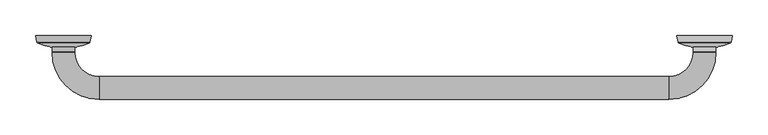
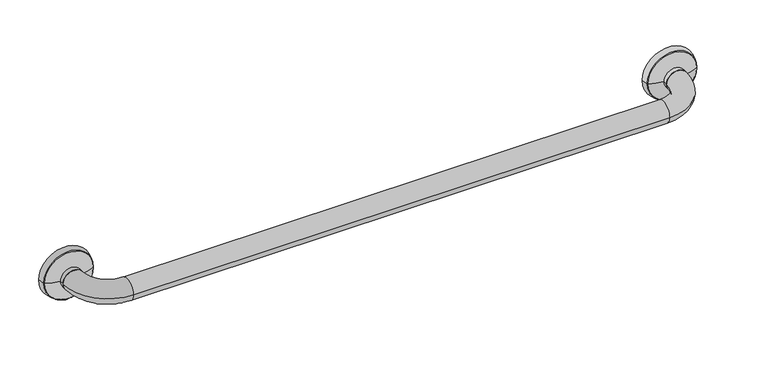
"""IFC4 building model written with IfcOpenShell, lengths in millimetres: proxy geometry, Grab Rail_Metlam_Straight_Horizontal : 932long x 90d x 32h (ML333_1SS)."""

from ifc_helpers import new_model, si_unit, point, frame, origin, place, context, project, spatial, polyline, circle_curve, ellipse_curve, trimmed, source, transform, mapped, element, save
from ifc_brep_helpers import plane_surface, cylinder_surface, revolved_surface, advanced_brep


def specialty_equipment_0fb7e8bb(model_context):
    return source(origin(), model_context, "Body", "AdvancedBrep", [
        advanced_brep(
        [(89.0, -58.0, 784.0), (55.0, -24.0, 784.0), (23.0, -24.0, 784.0), (89.0, -90.0, 784.0), (889.0, -90.0, 784.0), (889.0, -58.0, 784.0), (955.0, -24.0, 784.0), (923.0, -24.0, 784.0), (55.0, -23.0, 784.0), (23.0, -23.0, 784.0), (955.0, -23.0, 784.0), (923.0, -23.0, 784.0), (0.0, 0.0, 784.0), (78.0, 0.0, 784.0), (76.1870729, -9.0646354, 784.0), (1.8129271, -9.0646354, 784.0), (2.8615925, -10.4521085, 784.0), (75.1384075, -10.4521085, 784.0), (55.0, -16.0065539, 784.0), (23.0, -16.0065539, 784.0), (39.0, 0.0, 784.0), (978.0, 0.0, 784.0), (900.0, 0.0, 784.0), (939.0, 0.0, 784.0), (976.1870729, -9.0646354, 784.0), (901.8129271, -9.0646354, 784.0), (955.0, -16.0065539, 784.0), (923.0, -16.0065539, 784.0), (902.8615925, -10.4521085, 784.0), (975.1384075, -10.4521085, 784.0)],
        [
            (0, 1, circle_curve(frame((89.0, -24.0, 784.0), z_axis=(0.0, 0.0, -1.0), x_axis=(-1.0, 0.0, 0.0)), 34.0)),
            (1, 2, circle_curve(frame((39.0, -24.0, 784.0), z_axis=(0.0, -1.0, 0.0), x_axis=(1.0, 0.0, 0.0)), 16.0)),
            (2, 3, circle_curve(frame((89.0, -24.0, 784.0), z_axis=(0.0, 0.0, 1.0), x_axis=(-1.0, 0.0, 0.0)), 66.0)),
            (3, 0, circle_curve(frame((89.0, -74.0, 784.0), z_axis=(-1.0, 1.825290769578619e-12, 0.0), x_axis=(1.825290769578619e-12, 1.0, 0.0)), 16.0)),
            (0, 3, circle_curve(frame((89.0, -74.0, 784.0), z_axis=(-1.0, 3.5350342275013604e-12, 0.0), x_axis=(3.5350342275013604e-12, 1.0, 0.0)), 16.0)),
            (2, 1, circle_curve(frame((39.0, -24.0, 784.0), z_axis=(0.0, -1.0, 0.0), x_axis=(1.0, 0.0, 0.0)), 16.0)),
            (3, 4),
            (4, 5, circle_curve(frame((889.0, -74.0, 784.0), z_axis=(-1.0, 0.0, 0.0), x_axis=(0.0, 1.0, 0.0)), 16.0)),
            (5, 0),
            (5, 4, circle_curve(frame((889.0, -74.0, 784.0), z_axis=(-1.0, 0.0, 0.0), x_axis=(0.0, 1.0, 0.0)), 16.0)),
            (4, 6, circle_curve(frame((889.0, -24.0, 784.0), z_axis=(0.0, 0.0, 1.0), x_axis=(0.0, -1.0, 0.0)), 66.0)),
            (6, 7, circle_curve(frame((939.0, -24.0, 784.0), z_axis=(0.0, -1.0, 0.0), x_axis=(-1.0, 0.0, 0.0)), 16.0)),
            (7, 5, circle_curve(frame((889.0, -24.0, 784.0), z_axis=(0.0, 0.0, -1.0), x_axis=(0.0, -1.0, 0.0)), 34.0)),
            (7, 6, circle_curve(frame((939.0, -24.0, 784.0), z_axis=(0.0, -1.0, 0.0), x_axis=(-1.0, 0.0, 0.0)), 16.0)),
            (1, 8),
            (8, 9, circle_curve(frame((39.0, -23.0, 784.0), z_axis=(0.0, -1.0, 0.0), x_axis=(1.0, 0.0, 0.0)), 16.0)),
            (9, 2),
            (9, 8, circle_curve(frame((39.0, -23.0, 784.0), z_axis=(0.0, -1.0, 0.0), x_axis=(1.0, 0.0, 0.0)), 16.0)),
            (6, 10),
            (10, 11, circle_curve(frame((939.0, -23.0, 784.0), z_axis=(0.0, -1.0, 0.0), x_axis=(-1.0, 0.0, 0.0)), 16.0)),
            (11, 7),
            (11, 10, circle_curve(frame((939.0, -23.0, 784.0), z_axis=(0.0, -1.0, 0.0), x_axis=(-1.0, 0.0, 0.0)), 16.0)),
            (12, 13, circle_curve(frame((39.0, 0.0, 784.0), z_axis=(0.0, -1.0, 0.0), x_axis=(1.0, 0.0, 0.0)), 39.0)),
            (13, 14),
            (14, 15, circle_curve(frame((39.0, -9.0646354, 784.0), z_axis=(0.0, 1.0, 0.0), x_axis=(1.0, 0.0, 0.0)), 37.1870729)),
            (15, 12),
            (13, 12, circle_curve(frame((39.0, 0.0, 784.0), z_axis=(0.0, -1.0, 0.0), x_axis=(1.0, 0.0, 0.0)), 39.0)),
            (15, 14, circle_curve(frame((39.0, -9.0646354, 784.0), z_axis=(0.0, 1.0, 0.0), x_axis=(1.0, 0.0, 0.0)), 37.1870729)),
            (16, 17, circle_curve(frame((39.0, -10.4521085, 784.0), z_axis=(0.0, -1.0, 0.0), x_axis=(1.0, 0.0, 0.0)), 36.1384075)),
            (17, 18, circle_curve(frame((51.6887092, 35.2834961, 784.0), z_axis=(0.0, 0.0, -1.0), x_axis=(-1.0, 0.0, 0.0)), 51.3968275)),
            (18, 19, circle_curve(frame((39.0, -16.0065539, 784.0), z_axis=(0.0, 1.0, 0.0), x_axis=(1.0, 0.0, 0.0)), 16.0)),
            (19, 16, circle_curve(frame((26.3112908, 35.2834961, 784.0), z_axis=(0.0, 0.0, -1.0), x_axis=(1.0, 0.0, 0.0)), 51.3968275)),
            (17, 16, circle_curve(frame((39.0, -10.4521085, 784.0), z_axis=(0.0, -1.0, 0.0), x_axis=(1.0, 0.0, 0.0)), 36.1384075)),
            (19, 18, circle_curve(frame((39.0, -16.0065539, 784.0), z_axis=(0.0, 1.0, 0.0), x_axis=(1.0, 0.0, 0.0)), 16.0)),
            (18, 8),
            (9, 19),
            (12, 20),
            (20, 13),
            (14, 17, circle_curve(frame((74.2259116, -8.6724031, 784.0), z_axis=(0.0, 0.0, -1.0), x_axis=(-1.0, 0.0, 0.0)), 2.0)),
            (16, 15, circle_curve(frame((3.7740884, -8.6724031, 784.0), z_axis=(0.0, 0.0, -1.0), x_axis=(1.0, 0.0, 0.0)), 2.0)),
            (21, 22, circle_curve(frame((939.0, 0.0, 784.0), z_axis=(0.0, 1.0, 0.0), x_axis=(-1.0, 0.0, 0.0)), 39.0)),
            (22, 23),
            (23, 21),
            (22, 21, circle_curve(frame((939.0, 0.0, 784.0), z_axis=(0.0, 1.0, 0.0), x_axis=(-1.0, 0.0, 0.0)), 39.0)),
            (21, 24),
            (24, 25, circle_curve(frame((939.0, -9.0646354, 784.0), z_axis=(0.0, 1.0, 0.0), x_axis=(-1.0, 0.0, 0.0)), 37.1870729)),
            (25, 22),
            (25, 24, circle_curve(frame((939.0, -9.0646354, 784.0), z_axis=(0.0, 1.0, 0.0), x_axis=(-1.0, 0.0, 0.0)), 37.1870729)),
            (26, 27, circle_curve(frame((939.0, -16.0065539, 784.0), z_axis=(0.0, 1.0, 0.0), x_axis=(-1.0, 0.0, 0.0)), 16.0)),
            (27, 28, circle_curve(frame((926.3112908, 35.2834961, 784.0), z_axis=(0.0, 0.0, -1.0), x_axis=(-1.0, 0.0, 0.0)), 51.3968275)),
            (28, 29, circle_curve(frame((939.0, -10.4521085, 784.0), z_axis=(0.0, -1.0, 0.0), x_axis=(-1.0, 0.0, 0.0)), 36.1384075)),
            (29, 26, circle_curve(frame((951.6887092, 35.2834961, 784.0), z_axis=(0.0, 0.0, -1.0), x_axis=(1.0, 0.0, 0.0)), 51.3968275)),
            (27, 26, circle_curve(frame((939.0, -16.0065539, 784.0), z_axis=(0.0, 1.0, 0.0), x_axis=(-1.0, 0.0, 0.0)), 16.0)),
            (29, 28, circle_curve(frame((939.0, -10.4521085, 784.0), z_axis=(0.0, -1.0, 0.0), x_axis=(-1.0, 0.0, 0.0)), 36.1384075)),
            (26, 10),
            (11, 27),
            (24, 29, circle_curve(frame((974.2259116, -8.6724031, 784.0), z_axis=(0.0, 0.0, -1.0), x_axis=(1.0, 0.0, 0.0)), 2.0)),
            (28, 25, circle_curve(frame((903.7740884, -8.6724031, 784.0), z_axis=(0.0, 0.0, -1.0), x_axis=(-1.0, 0.0, 0.0)), 2.0)),
        ],
        [
            revolved_surface(trimmed(ellipse_curve(frame((39.0, -24.0, 784.0), z_axis=(0.0, 1.0, 0.0), x_axis=(1.0, 0.0, 0.0)), 16.0, 16.0), [point((23.0, -24.0, 784.0))], [point((55.0, -24.0, 784.0))], True, "CARTESIAN"), (89.0, -24.0, 784.0), (0.0, 0.0, 1.0)),
            revolved_surface(trimmed(ellipse_curve(frame((39.0, -24.0, 784.0), z_axis=(0.0, 1.0, 0.0), x_axis=(1.0, 0.0, 0.0)), 16.0, 16.0), [point((55.0, -24.0, 784.0))], [point((23.0, -24.0, 784.0))], True, "CARTESIAN"), (89.0, -24.0, 784.0), (0.0, 0.0, 1.0)),
            cylinder_surface(frame((89.0, -74.0, 784.0), z_axis=(-1.0, 0.0, 0.0), x_axis=(0.0, 1.0, 0.0)), 16.0),
            revolved_surface(trimmed(ellipse_curve(frame((889.0, -74.0, 784.0), z_axis=(-1.0, 0.0, 0.0), x_axis=(0.0, 1.0, 0.0)), 16.0, 16.0), [point((889.0, -90.0, 784.0))], [point((889.0, -58.0, 784.0))], True, "CARTESIAN"), (889.0, -24.0, 784.0), (0.0, 0.0, 1.0)),
            revolved_surface(trimmed(ellipse_curve(frame((889.0, -74.0, 784.0), z_axis=(-1.0, 0.0, 0.0), x_axis=(0.0, 1.0, 0.0)), 16.0, 16.0), [point((889.0, -58.0, 784.0))], [point((889.0, -90.0, 784.0))], True, "CARTESIAN"), (889.0, -24.0, 784.0), (0.0, 0.0, 1.0)),
            cylinder_surface(frame((39.0, -23.0, 784.0), z_axis=(0.0, 1.0, 0.0), x_axis=(1.0, 0.0, 0.0)), 16.0),
            cylinder_surface(frame((939.0, -24.0, 784.0), z_axis=(0.0, -1.0, 0.0), x_axis=(-1.0, 0.0, 0.0)), 16.0),
            revolved_surface(polyline([(76.1870729, -9.0646354, 784.0), (78.0, 0.0, 784.0)]), (39.0, -10.0, 784.0), (0.0, 1.0, 0.0)),
            revolved_surface(trimmed(ellipse_curve(frame((51.6887092, 35.2834961, 784.0), z_axis=(0.0, 0.0, 1.0), x_axis=(-1.0, 0.0, 0.0)), 51.3968275, 51.3968275), [point((55.0, -16.0065539, 784.0))], [point((75.1384075, -10.4521085, 784.0))], True, "CARTESIAN"), (39.0, -10.0, 784.0), (0.0, 1.0, 0.0)),
            cylinder_surface(frame((39.0, -10.0, 784.0), z_axis=(0.0, 1.0, 0.0), x_axis=(1.0, 0.0, 0.0)), 16.0),
            plane_surface(frame((39.0, 0.0, 784.0), z_axis=(0.0, 1.0, 0.0), x_axis=(1.0, 0.0, 0.0))),
            revolved_surface(trimmed(ellipse_curve(frame((74.2259116, -8.6724031, 784.0), z_axis=(0.0, 0.0, 1.0), x_axis=(-1.0, 0.0, 0.0)), 2.0, 2.0), [point((75.1384075, -10.4521085, 784.0))], [point((76.1870729, -9.0646354, 784.0))], True, "CARTESIAN"), (39.0, -10.0, 784.0), (0.0, 1.0, 0.0)),
            plane_surface(frame((939.0, 0.0, 784.0), z_axis=(0.0, 1.0, 0.0), x_axis=(-1.0, 0.0, 0.0))),
            revolved_surface(polyline([(900.0, 0.0, 784.0), (901.8129271, -9.0646354, 784.0)]), (939.0, -10.0, 784.0), (0.0, -1.0, 0.0)),
            revolved_surface(trimmed(ellipse_curve(frame((926.3112908, 35.2834961, 784.0), z_axis=(0.0, 0.0, 1.0), x_axis=(-1.0, 0.0, 0.0)), 51.3968275, 51.3968275), [point((902.8615925, -10.4521085, 784.0))], [point((923.0, -16.0065539, 784.0))], True, "CARTESIAN"), (939.0, -10.0, 784.0), (0.0, -1.0, 0.0)),
            cylinder_surface(frame((939.0, -10.0, 784.0), z_axis=(0.0, -1.0, 0.0), x_axis=(-1.0, 0.0, 0.0)), 16.0),
            revolved_surface(trimmed(ellipse_curve(frame((903.7740884, -8.6724031, 784.0), z_axis=(0.0, 0.0, 1.0), x_axis=(-1.0, 0.0, 0.0)), 2.0, 2.0), [point((901.8129271, -9.0646354, 784.0))], [point((902.8615925, -10.4521085, 784.0))], True, "CARTESIAN"), (939.0, -10.0, 784.0), (0.0, -1.0, 0.0)),
        ],
        [
            (0, [[1, 2, 3, 4]]),
            (1, [[-1, 5, -3, 6]]),
            (2, [[-4, 7, 8, 9]]),
            (2, [[-5, -9, 10, -7]]),
            (3, [[-8, 11, 12, 13]]),
            (4, [[-10, -13, 14, -11]]),
            (5, [[-2, 15, 16, 17]]),
            (5, [[-6, -17, 18, -15]]),
            (6, [[-12, 19, 20, 21]]),
            (6, [[-14, -21, 22, -19]]),
            (7, [[23, 24, 25, 26]]),
            (7, [[-24, 27, -26, 28]]),
            (8, [[29, 30, 31, 32]]),
            (8, [[-30, 33, -32, 34]]),
            (9, [[-31, 35, -18, 36]]),
            (9, [[-34, -36, -16, -35]]),
            (10, [[-23, 37, 38]]),
            (10, [[-27, -38, -37]]),
            (11, [[-25, 39, -29, 40]]),
            (11, [[-28, -40, -33, -39]]),
            (12, [[41, 42, 43]]),
            (12, [[-42, 44, -43]]),
            (13, [[-41, 45, 46, 47]]),
            (13, [[-44, -47, 48, -45]]),
            (14, [[49, 50, 51, 52]]),
            (14, [[-50, 53, -52, 54]]),
            (15, [[-49, 55, -22, 56]]),
            (15, [[-53, -56, -20, -55]]),
            (16, [[-46, 57, -51, 58]]),
            (16, [[-48, -58, -54, -57]]),
        ],
    ),
    ])


if __name__ == "__main__":
    model = new_model("IFC4")
    model_context = context("Model", 3, world=origin())
    ifc_project = project(units=[si_unit("LENGTHUNIT", "METRE", prefix="MILLI")], contexts=[model_context])
    site = spatial("IfcSite", under=ifc_project)
    building = spatial("IfcBuilding", under=site)
    placement = place(None, origin())
    specialty_equipment_shape = specialty_equipment_0fb7e8bb(model_context)
    element("IfcBuildingElementProxy", 1, Name="Grab Rail_Metlam_Straight_Horizontal : 932long x 90d x 32h (ML333_1SS)", ObjectType="Grab Rail_Metlam_Straight_Horizontal : 932long x 90d x 32h (ML333_1SS)", at=placement, inside=building, context=model_context, shape_type="MappedRepresentation", body=[
        mapped(specialty_equipment_shape, transform((0.0, 0.0, 0.0), x_axis=(1.0, 0.0, 0.0), y_axis=(0.0, 1.0, 0.0), z_axis=(0.0, 0.0, 1.0))),
    ])
    save(model, "model.ifc")
